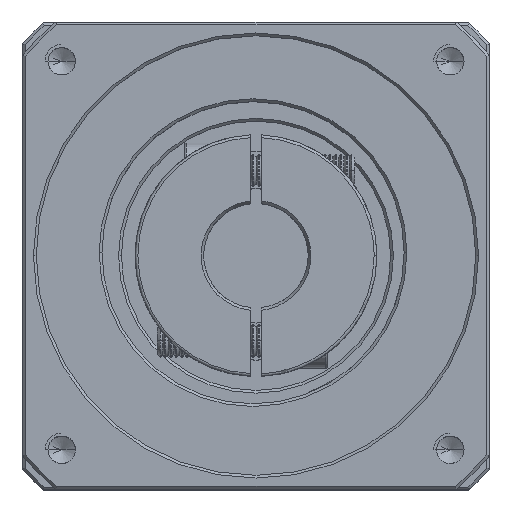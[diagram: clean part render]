
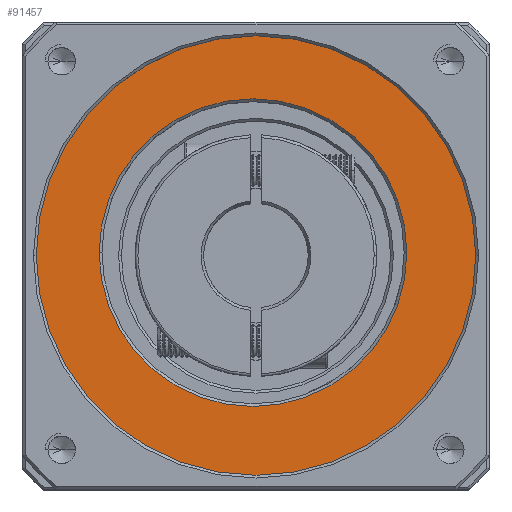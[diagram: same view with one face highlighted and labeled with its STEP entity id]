
A CAD part, top view. The second image highlights one B-rep face of the part: STEP entity #91457.
In plain terms, the highlighted planar face has unit normal (0, 0, 1).
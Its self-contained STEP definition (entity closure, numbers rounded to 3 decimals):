
#5262 = DIRECTION ( 'NONE',  ( 0., 0., 1. ) ) ;
#10484 = ORIENTED_EDGE ( 'NONE', *, *, #36602, .T. ) ;
#13502 = PLANE ( 'NONE',  #98402 ) ;
#13966 = DIRECTION ( 'NONE',  ( 0., 0., 1. ) ) ;
#18916 = ORIENTED_EDGE ( 'NONE', *, *, #69624, .T. ) ;
#20326 = EDGE_LOOP ( 'NONE', ( #10484, #31540 ) ) ;
#21703 = AXIS2_PLACEMENT_3D ( 'NONE', #104411, #50690, #113417 ) ;
#23009 = VERTEX_POINT ( 'NONE', #109474 ) ;
#23480 = DIRECTION ( 'NONE',  ( 0., 0., 1. ) ) ;
#25389 = CARTESIAN_POINT ( 'NONE',  ( -65.806, 25.131, 19.207 ) ) ;
#31228 = EDGE_LOOP ( 'NONE', ( #18916, #105858 ) ) ;
#31540 = ORIENTED_EDGE ( 'NONE', *, *, #115168, .T. ) ;
#32467 = AXIS2_PLACEMENT_3D ( 'NONE', #67569, #13966, #76636 ) ;
#36602 = EDGE_CURVE ( 'NONE', #97737, #88263, #77538, .T. ) ;
#40475 = EDGE_CURVE ( 'NONE', #74987, #23009, #80569, .T. ) ;
#42011 = CARTESIAN_POINT ( 'NONE',  ( -93.806, 25.131, 19.207 ) ) ;
#42409 = FACE_BOUND ( 'NONE', #20326, .T. ) ;
#49144 = AXIS2_PLACEMENT_3D ( 'NONE', #42011, #104710, #50983 ) ;
#49668 = AXIS2_PLACEMENT_3D ( 'NONE', #77142, #23480, #86142 ) ;
#50690 = DIRECTION ( 'NONE',  ( 0., 0., -1. ) ) ;
#50983 = DIRECTION ( 'NONE',  ( 1., 0., 0. ) ) ;
#58913 = CARTESIAN_POINT ( 'NONE',  ( -93.264, 24.596, 19.207 ) ) ;
#60511 = CARTESIAN_POINT ( 'NONE',  ( -121.806, 25.131, 19.207 ) ) ;
#61851 = CIRCLE ( 'NONE', #21703, 28. ) ;
#67377 = CIRCLE ( 'NONE', #32467, 40. ) ;
#67569 = CARTESIAN_POINT ( 'NONE',  ( -93.264, 24.596, 19.207 ) ) ;
#67865 = DIRECTION ( 'NONE',  ( 1., 0., 0. ) ) ;
#69624 = EDGE_CURVE ( 'NONE', #23009, #74987, #67377, .T. ) ;
#74987 = VERTEX_POINT ( 'NONE', #87509 ) ;
#76636 = DIRECTION ( 'NONE',  ( 1., 0., 0. ) ) ;
#77142 = CARTESIAN_POINT ( 'NONE',  ( -93.264, 24.596, 19.207 ) ) ;
#77538 = CIRCLE ( 'NONE', #49144, 28. ) ;
#80569 = CIRCLE ( 'NONE', #49668, 40. ) ;
#86142 = DIRECTION ( 'NONE',  ( 1., 0., 0. ) ) ;
#87509 = CARTESIAN_POINT ( 'NONE',  ( -133.264, 24.596, 19.207 ) ) ;
#88263 = VERTEX_POINT ( 'NONE', #60511 ) ;
#90030 = FACE_OUTER_BOUND ( 'NONE', #31228, .T. ) ;
#91457 = ADVANCED_FACE ( 'NONE', ( #90030, #42409 ), #13502, .T. ) ;
#97737 = VERTEX_POINT ( 'NONE', #25389 ) ;
#98402 = AXIS2_PLACEMENT_3D ( 'NONE', #58913, #5262, #67865 ) ;
#104411 = CARTESIAN_POINT ( 'NONE',  ( -93.806, 25.131, 19.207 ) ) ;
#104710 = DIRECTION ( 'NONE',  ( 0., 0., -1. ) ) ;
#105858 = ORIENTED_EDGE ( 'NONE', *, *, #40475, .T. ) ;
#109474 = CARTESIAN_POINT ( 'NONE',  ( -53.264, 24.596, 19.207 ) ) ;
#113417 = DIRECTION ( 'NONE',  ( 1., 0., 0. ) ) ;
#115168 = EDGE_CURVE ( 'NONE', #88263, #97737, #61851, .T. ) ;
